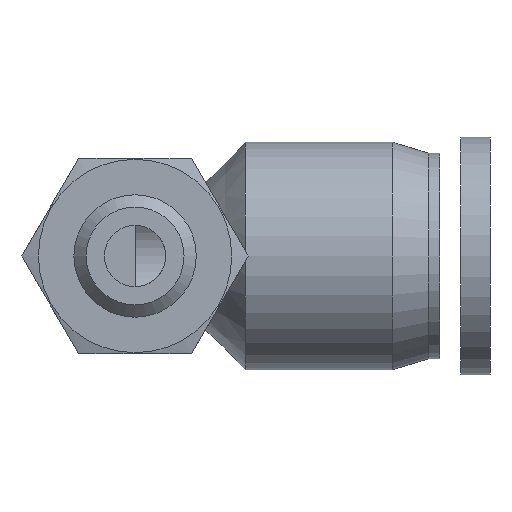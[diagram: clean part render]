
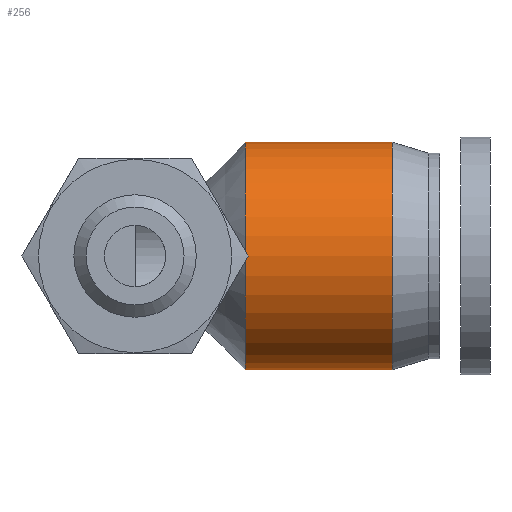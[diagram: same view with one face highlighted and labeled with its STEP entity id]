
A CAD part, front view. The second image highlights one B-rep face of the part: STEP entity #256.
In plain terms, the highlighted cylindrical face has radius 4.65 mm (diameter 9.3 mm), a full revolution.
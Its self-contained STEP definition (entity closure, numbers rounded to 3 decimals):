
#225=CARTESIAN_POINT('',(10.5,4.65,0.0));
#226=VERTEX_POINT('',#225);
#227=CARTESIAN_POINT('',(10.5,0.0,0.0));
#228=DIRECTION('',(1.0,0.0,0.0));
#229=DIRECTION('',(0.0,1.0,0.0));
#230=AXIS2_PLACEMENT_3D('',#227,#228,#229);
#231=CIRCLE('',#230,4.65);
#232=EDGE_CURVE('',#226,#226,#231,.T.);
#237=CARTESIAN_POINT('',(7.5,0.0,0.0));
#238=DIRECTION('',(1.0,0.0,0.0));
#239=DIRECTION('',(0.0,1.0,0.0));
#240=AXIS2_PLACEMENT_3D('',#237,#238,#239);
#241=CYLINDRICAL_SURFACE('',#240,4.65);
#242=ORIENTED_EDGE('',*,*,#232,.F.);
#243=EDGE_LOOP('',(#242));
#244=FACE_OUTER_BOUND('',#243,.T.);
#245=CARTESIAN_POINT('',(4.5,4.65,0.0));
#246=VERTEX_POINT('',#245);
#247=CARTESIAN_POINT('',(4.5,0.0,0.0));
#248=DIRECTION('',(1.0,0.0,0.0));
#249=DIRECTION('',(0.0,1.0,0.0));
#250=AXIS2_PLACEMENT_3D('',#247,#248,#249);
#251=CIRCLE('',#250,4.65);
#252=EDGE_CURVE('',#246,#246,#251,.T.);
#253=ORIENTED_EDGE('',*,*,#252,.T.);
#254=EDGE_LOOP('',(#253));
#255=FACE_BOUND('',#254,.T.);
#256=ADVANCED_FACE('',(#244,#255),#241,.T.);
